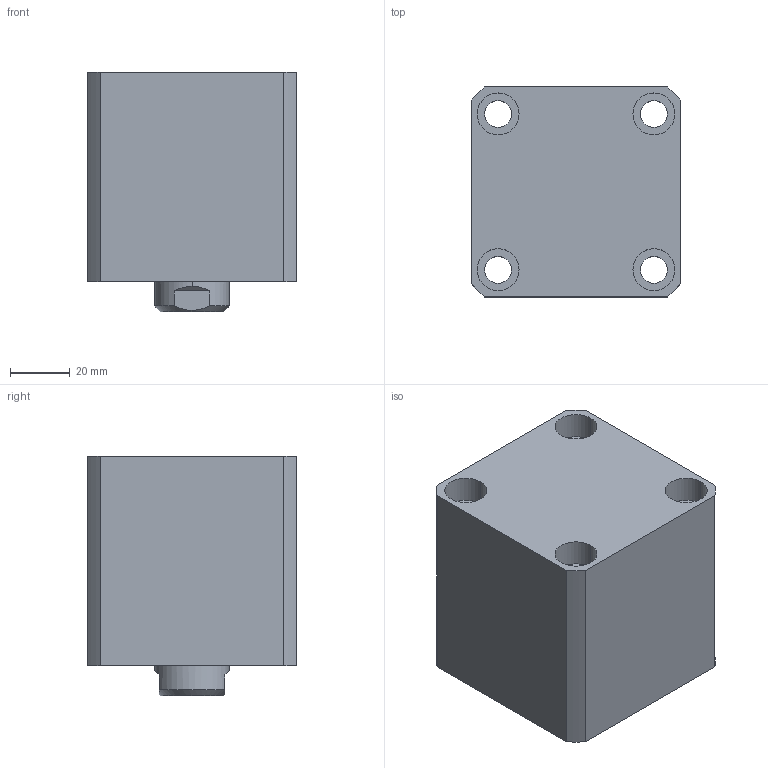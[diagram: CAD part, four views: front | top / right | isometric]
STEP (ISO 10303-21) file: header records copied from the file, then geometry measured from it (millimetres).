
FILE_DESCRIPTION (( 'STEP AP214' ), '1' );
FILE_NAME ('chtb-sd40x15_asm.STEP', '2018-06-07T08:26:04', ( 'Windows' ), ( 'Microsoft' ), 'SwSTEP 2.0', 'SolidWorks 2015', '' );
FILE_SCHEMA (( 'AUTOMOTIVE_DESIGN' ));
Length unit declared in the file: millimetre
Products named in the file (4): CHTB-SD40X15NHSG; CHTB-SD40X15NBT; CHTB-SD40QG; chtb-sd40x15_asm
Assembly tree (3 placements, depth 2):
  chtb-sd40x15_asm
    CHTB-SD40QG
    CHTB-SD40X15NBT
    CHTB-SD40X15NHSG
Bounding box: 70 x 70 x 80 mm (x, y, z)
Volume: 297616.5 mm3; surface area: 67584.3 mm2
Topology: 3 solids, 3 shells, 157 faces, 401 edges, 266 vertices
Faces by surface type: cylinder 80, plane 36, bspline 14, torus 14, cone 13
Entity records: 9977 total; most frequent: CARTESIAN_POINT 6053, ORIENTED_EDGE 790, DIRECTION 768, EDGE_CURVE 395, AXIS2_PLACEMENT_3D 328, VERTEX_POINT 266, EDGE_LOOP 193, CIRCLE 179
